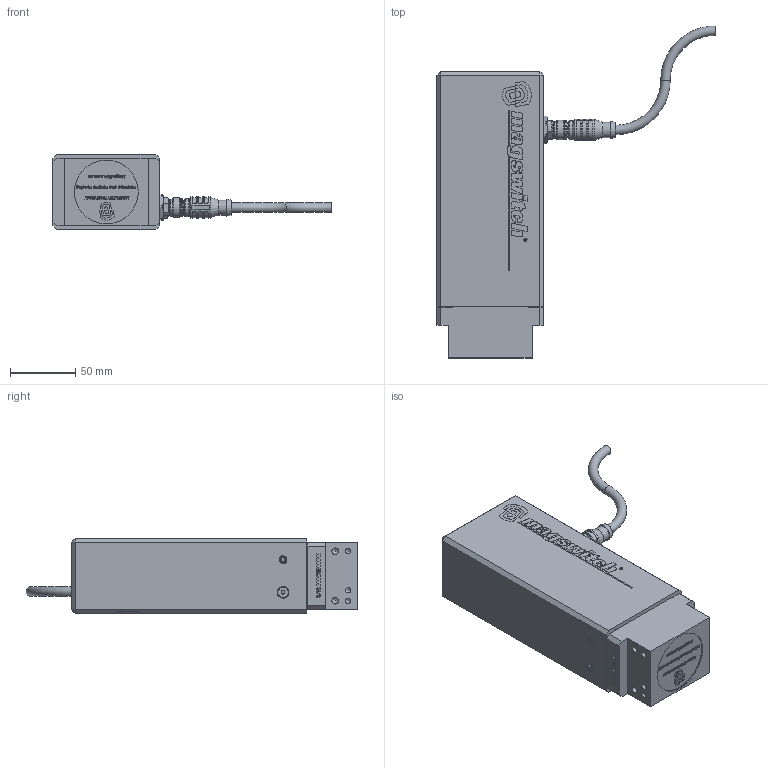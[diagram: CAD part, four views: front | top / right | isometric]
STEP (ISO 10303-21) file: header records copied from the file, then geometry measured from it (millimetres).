
FILE_DESCRIPTION (( 'STEP AP214' ), '1' );
FILE_NAME ('80001264_CFM.STEP', '2024-03-28T22:51:56', ( '' ), ( '' ), 'SwSTEP 2.0', 'SolidWorks 2022', '' );
FILE_SCHEMA (( 'AUTOMOTIVE_DESIGN' ));
Length unit declared in the file: millimetre
Products named in the file (3): 80001264_s; 80001264_CFM; FEMALE M12
Assembly tree (2 placements, depth 2):
  80001264_CFM
    80001264_s
    FEMALE M12
Bounding box: 213.5 x 254.82 x 58 mm (x, y, z)
Volume: 1001312.2 mm3; surface area: 87144.4 mm2
Topology: 2 solids, 12 shells, 3009 faces, 7922 edges, 5226 vertices
Faces by surface type: plane 1677, bspline 1044, cylinder 166, cone 90, torus 32
Full cylindrical faces by diameter (mm): 1 x5, 2 x1, 3.4 x4, 4 x8, 5 x6, 6 x10, 6.3 x4, 6.8 x5, 8 x2, 8.4 x1, 9 x2, 9.8 x1, 10.433 x1, 10.8 x1, 11 x1, 11.6 x1, 12 x2, 12.3 x1, 12.5 x1, 13 x2, 13.2 x1, 14 x1, 14.2 x1, 15 x1, 16.5 x1, 49 x1, 49.8 x1
Entity records: 181221 total; most frequent: CARTESIAN_POINT 83690, ORIENTED_EDGE 15404, DIRECTION 9846, EDGE_CURVE 7702, VERTEX_POINT 5147, VECTOR 5072, LINE 5072, EDGE_LOOP 3447
